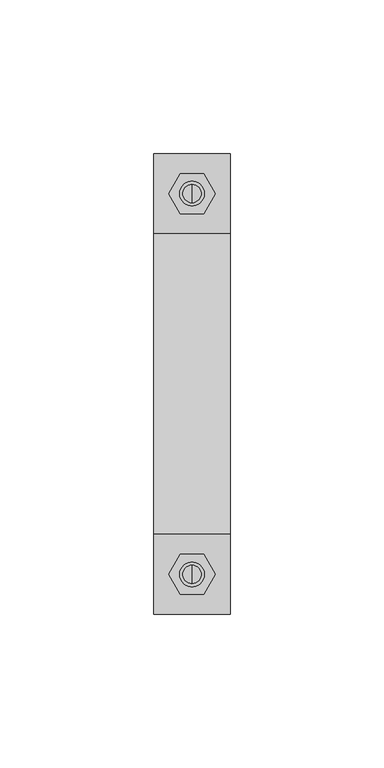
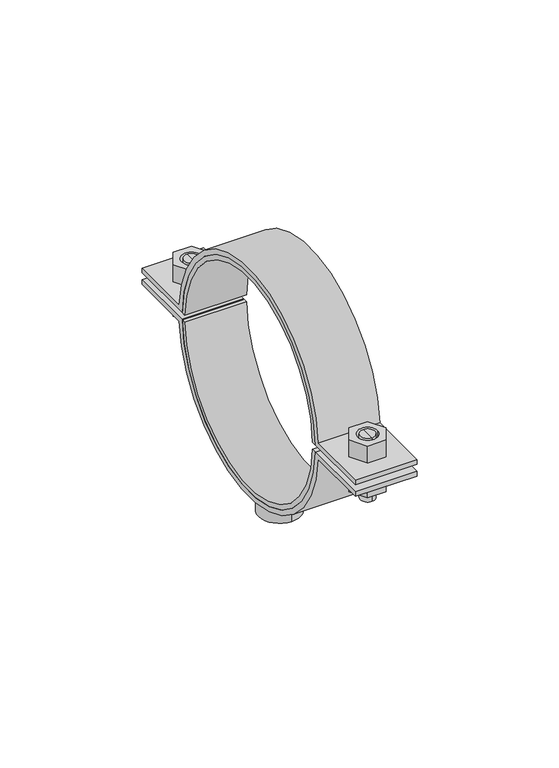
"""IFC4 building model written with IfcOpenShell, lengths in millimetres: valve geometry, Superfix DG2 Clamp Extra + : Superfix DG2 Clamp Extra +."""

from ifc_helpers import new_model, si_unit, point, frame, frame_2d, origin, origin_2d, place, context, project, spatial, polyline, circle_curve, trimmed, segment, composite_curve, outline, extrude, source, transform, mapped, element, save
from ifc_brep_helpers import plane_surface, cylinder_surface, advanced_brep


def valve_25c7dca7(model_context):
    return source(origin(), model_context, "Body", "SolidModel", [
        advanced_brep(
        [(0.0, 65.0, 333.9), (0.0, 59.0, 333.9), (0.0, 59.0, 348.5), (0.0, 65.0, 348.5), (0.0, 62.0, 333.9)],
        [
            (0, 1, circle_curve(frame((0.0, 62.0, 333.9), z_axis=(0.0, 0.0, 1.0), x_axis=(0.0, 1.0, 0.0)), 3.0)),
            (1, 2),
            (2, 3, circle_curve(frame((0.0, 62.0, 348.5), z_axis=(0.0, 0.0, -1.0), x_axis=(0.0, 1.0, 0.0)), 3.0)),
            (3, 0),
            (1, 0, circle_curve(frame((0.0, 62.0, 333.9), z_axis=(0.0, 0.0, 1.0), x_axis=(0.0, 1.0, 0.0)), 3.0)),
            (3, 2, circle_curve(frame((0.0, 62.0, 348.5), z_axis=(0.0, 0.0, -1.0), x_axis=(0.0, 1.0, 0.0)), 3.0)),
            (0, 4),
            (4, 1),
        ],
        [
            cylinder_surface(frame((0.0, 62.0, 348.2806094), z_axis=(0.0, 0.0, 1.0), x_axis=(0.0, 1.0, 0.0)), 3.0),
            plane_surface(frame((0.0, 62.0, 333.9), z_axis=(0.0, 0.0, -1.0), x_axis=(0.0, 1.0, 0.0))),
            plane_surface(frame((13.75, -75.0, 348.5), z_axis=(0.0, 0.0, 1.0), x_axis=(-1.0, 0.0, 0.0))),
        ],
        [
            (0, [[1, 2, 3, 4]]),
            (0, [[5, -4, 6, -2]]),
            (1, [[-1, 7, 8]]),
            (1, [[-5, -8, -7]]),
            (2, [[-3, -6]]),
        ],
    ),
        advanced_brep(
        [(0.0, 59.0, 361.1), (0.0, 65.0, 361.1), (0.0, 65.0, 351.5), (0.0, 59.0, 351.5), (0.0, 62.0, 361.1)],
        [
            (0, 1, circle_curve(frame((0.0, 62.0, 361.1), z_axis=(0.0, 0.0, -1.0), x_axis=(0.0, 1.0, 0.0)), 3.0)),
            (1, 2),
            (2, 3, circle_curve(frame((0.0, 62.0, 351.5), z_axis=(0.0, 0.0, 1.0), x_axis=(0.0, 1.0, 0.0)), 3.0)),
            (3, 0),
            (1, 0, circle_curve(frame((0.0, 62.0, 361.1), z_axis=(0.0, 0.0, -1.0), x_axis=(0.0, 1.0, 0.0)), 3.0)),
            (3, 2, circle_curve(frame((0.0, 62.0, 351.5), z_axis=(0.0, 0.0, 1.0), x_axis=(0.0, 1.0, 0.0)), 3.0)),
            (0, 4),
            (4, 1),
        ],
        [
            cylinder_surface(frame((0.0, 62.0, 348.2806094), z_axis=(0.0, 0.0, 1.0), x_axis=(0.0, 1.0, 0.0)), 3.0),
            plane_surface(frame((0.0, 62.0, 361.1), z_axis=(0.0, 0.0, 1.0), x_axis=(0.0, 1.0, 0.0))),
            plane_surface(frame((13.75, 75.0, 351.5), z_axis=(0.0, 0.0, -1.0), x_axis=(-1.0, 0.0, 0.0))),
        ],
        [
            (0, [[1, 2, 3, 4]]),
            (0, [[5, -4, 6, -2]]),
            (1, [[-1, 7, 8]]),
            (1, [[-5, -8, -7]]),
            (2, [[-3, -6]]),
        ],
    ),
        advanced_brep(
        [(0.0, -65.0, 361.1), (0.0, -59.0, 361.1), (0.0, -59.0, 351.5), (0.0, -65.0, 351.5), (0.0, -62.0, 361.1)],
        [
            (0, 1, circle_curve(frame((0.0, -62.0, 361.1), z_axis=(0.0, 0.0, -1.0), x_axis=(0.0, -1.0, 0.0)), 3.0)),
            (1, 2),
            (2, 3, circle_curve(frame((0.0, -62.0, 351.5), z_axis=(0.0, 0.0, 1.0), x_axis=(0.0, -1.0, 0.0)), 3.0)),
            (3, 0),
            (1, 0, circle_curve(frame((0.0, -62.0, 361.1), z_axis=(0.0, 0.0, -1.0), x_axis=(0.0, -1.0, 0.0)), 3.0)),
            (3, 2, circle_curve(frame((0.0, -62.0, 351.5), z_axis=(0.0, 0.0, 1.0), x_axis=(0.0, -1.0, 0.0)), 3.0)),
            (0, 4),
            (4, 1),
        ],
        [
            cylinder_surface(frame((0.0, -62.0, 348.2806094), z_axis=(0.0, 0.0, -1.0), x_axis=(0.0, -1.0, 0.0)), 3.0),
            plane_surface(frame((0.0, -62.0, 361.1), z_axis=(0.0, 0.0, 1.0), x_axis=(0.0, -1.0, 0.0))),
            plane_surface(frame((13.75, 75.0, 351.5), z_axis=(0.0, 0.0, -1.0), x_axis=(-1.0, 0.0, 0.0))),
        ],
        [
            (0, [[1, 2, 3, 4]]),
            (0, [[5, -4, 6, -2]]),
            (1, [[-1, 7, 8]]),
            (1, [[-5, -8, -7]]),
            (2, [[-3, -6]]),
        ],
    ),
        advanced_brep(
        [(0.0, -59.0, 333.9), (0.0, -65.0, 333.9), (0.0, -65.0, 348.5), (0.0, -59.0, 348.5), (0.0, -62.0, 333.9)],
        [
            (0, 1, circle_curve(frame((0.0, -62.0, 333.9), z_axis=(0.0, 0.0, 1.0), x_axis=(0.0, -1.0, 0.0)), 3.0)),
            (1, 2),
            (2, 3, circle_curve(frame((0.0, -62.0, 348.5), z_axis=(0.0, 0.0, -1.0), x_axis=(0.0, -1.0, 0.0)), 3.0)),
            (3, 0),
            (1, 0, circle_curve(frame((0.0, -62.0, 333.9), z_axis=(0.0, 0.0, 1.0), x_axis=(0.0, -1.0, 0.0)), 3.0)),
            (3, 2, circle_curve(frame((0.0, -62.0, 348.5), z_axis=(0.0, 0.0, -1.0), x_axis=(0.0, -1.0, 0.0)), 3.0)),
            (0, 4),
            (4, 1),
        ],
        [
            cylinder_surface(frame((0.0, -62.0, 348.2806094), z_axis=(0.0, 0.0, -1.0), x_axis=(0.0, -1.0, 0.0)), 3.0),
            plane_surface(frame((0.0, -62.0, 333.9), z_axis=(0.0, 0.0, -1.0), x_axis=(0.0, -1.0, 0.0))),
            plane_surface(frame((13.75, -75.0, 348.5), z_axis=(0.0, 0.0, 1.0), x_axis=(-1.0, 0.0, 0.0))),
        ],
        [
            (0, [[1, 2, 3, 4]]),
            (0, [[5, -4, 6, -2]]),
            (1, [[-1, 7, 8]]),
            (1, [[-5, -8, -7]]),
            (2, [[-3, -6]]),
        ],
    ),
        extrude(outline(composite_curve([segment(trimmed(circle_curve(frame_2d((0.0, 350.0)), 47.0), [point((-46.9760577, 348.5))], [point((46.9760577, 348.5))], True, "CARTESIAN"), True, "CONTINUOUS"), segment(polyline([(46.9760577, 348.5), (75.0, 348.5), (75.0, 346.5), (48.8748402, 346.5)]), True, "CONTINUOUS"), segment(trimmed(circle_curve(frame_2d((0.0, 350.0)), 49.0), [point((48.8748402, 346.5))], [point((-48.8748402, 346.5))], False, "CARTESIAN"), True, "CONTINUOUS"), segment(polyline([(-48.8748402, 346.5), (-75.0, 346.5), (-75.0, 348.5), (-46.9760577, 348.5)]), True, "CONTINUOUS")], self_intersect=False)), frame((-12.5, 0.0, 0.0), z_axis=(1.0, 0.0, 0.0), x_axis=(0.0, 1.0, 0.0)), (0.0, 0.0, 1.0), 25.0),
        extrude(outline(composite_curve([segment(trimmed(circle_curve(frame_2d((0.0, 350.0)), 47.0), [point((46.9760577, 351.5))], [point((-46.9760577, 351.5))], True, "CARTESIAN"), True, "CONTINUOUS"), segment(polyline([(-46.9760577, 351.5), (-75.0, 351.5), (-75.0, 353.5), (-48.8748402, 353.5)]), True, "CONTINUOUS"), segment(trimmed(circle_curve(frame_2d((0.0, 350.0)), 49.0), [point((-48.8748402, 353.5))], [point((48.8748402, 353.5))], False, "CARTESIAN"), True, "CONTINUOUS"), segment(polyline([(48.8748402, 353.5), (75.0, 353.5), (75.0, 351.5), (46.9760577, 351.5)]), True, "CONTINUOUS")], self_intersect=False)), frame((-12.5, 0.0, 0.0), z_axis=(1.0, 0.0, 0.0), x_axis=(0.0, 1.0, 0.0)), (0.0, 0.0, 1.0), 25.0),
        extrude(outline(polyline([(7.5055535, -62.0), (3.7527767, -68.5), (-3.7527767, -68.5), (-7.5055535, -62.0), (-3.7527767, -55.5), (3.7527767, -55.5), (7.5055535, -62.0)]), holes=[composite_curve([segment(trimmed(circle_curve(frame_2d((0.0, -62.0)), 4.0), [point((4.0, -62.0))], [point((-4.0, -62.0))], True, "CARTESIAN"), True, "CONTINUOUS"), segment(trimmed(circle_curve(frame_2d((0.0, -62.0)), 4.0), [point((-4.0, -62.0))], [point((4.0, -62.0))], True, "CARTESIAN"), True, "CONTINUOUS")], self_intersect=False)]), frame((0.0, 0.0, 353.5), z_axis=(0.0, 0.0, 1.0), x_axis=(1.0, 0.0, 0.0)), (0.0, 0.0, 1.0), 7.6),
        extrude(outline(polyline([(7.5055535, 62.0), (3.7527767, 55.5), (-3.7527767, 55.5), (-7.5055535, 62.0), (-3.7527767, 68.5), (3.7527767, 68.5), (7.5055535, 62.0)]), holes=[composite_curve([segment(trimmed(circle_curve(frame_2d((0.0, 62.0)), 4.0), [point((4.0, 62.0))], [point((-4.0, 62.0))], True, "CARTESIAN"), True, "CONTINUOUS"), segment(trimmed(circle_curve(frame_2d((0.0, 62.0)), 4.0), [point((-4.0, 62.0))], [point((4.0, 62.0))], True, "CARTESIAN"), True, "CONTINUOUS")], self_intersect=False)]), frame((0.0, 0.0, 353.5), z_axis=(0.0, 0.0, 1.0), x_axis=(1.0, 0.0, 0.0)), (0.0, 0.0, 1.0), 7.6),
        extrude(outline(polyline([(7.5055535, -62.0), (3.7527767, -68.5), (-3.7527767, -68.5), (-7.5055535, -62.0), (-3.7527767, -55.5), (3.7527767, -55.5), (7.5055535, -62.0)]), holes=[composite_curve([segment(trimmed(circle_curve(frame_2d((0.0, -62.0)), 4.0), [point((4.0, -62.0))], [point((-4.0, -62.0))], True, "CARTESIAN"), True, "CONTINUOUS"), segment(trimmed(circle_curve(frame_2d((0.0, -62.0)), 4.0), [point((-4.0, -62.0))], [point((4.0, -62.0))], True, "CARTESIAN"), True, "CONTINUOUS")], self_intersect=False)]), frame((0.0, 0.0, 338.9), z_axis=(0.0, 0.0, 1.0), x_axis=(1.0, 0.0, 0.0)), (0.0, 0.0, 1.0), 7.6),
        extrude(outline(polyline([(7.5055535, 62.0), (3.7527767, 55.5), (-3.7527767, 55.5), (-7.5055535, 62.0), (-3.7527767, 68.5), (3.7527767, 68.5), (7.5055535, 62.0)]), holes=[composite_curve([segment(trimmed(circle_curve(frame_2d((0.0, 62.0)), 4.0), [point((4.0, 62.0))], [point((-4.0, 62.0))], True, "CARTESIAN"), True, "CONTINUOUS"), segment(trimmed(circle_curve(frame_2d((0.0, 62.0)), 4.0), [point((-4.0, 62.0))], [point((4.0, 62.0))], True, "CARTESIAN"), True, "CONTINUOUS")], self_intersect=False)]), frame((0.0, 0.0, 338.9), z_axis=(0.0, 0.0, 1.0), x_axis=(1.0, 0.0, 0.0)), (0.0, 0.0, 1.0), 7.6),
        extrude(outline(composite_curve([segment(trimmed(circle_curve(origin_2d(), 8.5), [point((0.0, 8.5))], [point((0.0, -8.5))], False, "CARTESIAN"), True, "CONTINUOUS"), segment(trimmed(circle_curve(origin_2d(), 8.5), [point((0.0, -8.5))], [point((0.0, 8.5))], False, "CARTESIAN"), True, "CONTINUOUS")], self_intersect=False), holes=[composite_curve([segment(trimmed(circle_curve(origin_2d(), 5.0), [point((0.0, 5.0))], [point((0.0, -5.0))], True, "CARTESIAN"), True, "CONTINUOUS"), segment(trimmed(circle_curve(origin_2d(), 5.0), [point((0.0, -5.0))], [point((0.0, 5.0))], True, "CARTESIAN"), True, "CONTINUOUS")], self_intersect=False)]), frame((0.0, 0.0, 291.0), z_axis=(0.0, 0.0, 1.0), x_axis=(1.0, 0.0, 0.0)), (0.0, 0.0, 1.0), 12.0),
        extrude(outline(composite_curve([segment(trimmed(circle_curve(frame_2d((0.0, 350.0)), 45.0), [point((44.9749931, 351.5))], [point((-44.9749931, 351.5))], True, "CARTESIAN"), True, "CONTINUOUS"), segment(polyline([(-44.9749931, 351.5), (-46.9760577, 351.5)]), True, "CONTINUOUS"), segment(trimmed(circle_curve(frame_2d((0.0, 350.0)), 47.0), [point((-46.9760577, 351.5))], [point((46.9760577, 351.5))], False, "CARTESIAN"), True, "CONTINUOUS"), segment(polyline([(46.9760577, 351.5), (44.9749931, 351.5)]), True, "CONTINUOUS")], self_intersect=False)), frame((-12.5, 0.0, 0.0), z_axis=(1.0, 0.0, 0.0), x_axis=(0.0, 1.0, 0.0)), (0.0, 0.0, 1.0), 25.0),
        extrude(outline(composite_curve([segment(polyline([(44.9749931, 348.5), (46.9760577, 348.5)]), True, "CONTINUOUS"), segment(trimmed(circle_curve(frame_2d((0.0, 350.0)), 47.0), [point((46.9760577, 348.5))], [point((-46.9760577, 348.5))], False, "CARTESIAN"), True, "CONTINUOUS"), segment(polyline([(-46.9760577, 348.5), (-44.9749931, 348.5)]), True, "CONTINUOUS"), segment(trimmed(circle_curve(frame_2d((0.0, 350.0)), 45.0), [point((-44.9749931, 348.5))], [point((44.9749931, 348.5))], True, "CARTESIAN"), True, "CONTINUOUS")], self_intersect=False)), frame((-12.5, 0.0, 0.0), z_axis=(1.0, 0.0, 0.0), x_axis=(0.0, 1.0, 0.0)), (0.0, 0.0, 1.0), 25.0),
    ])


if __name__ == "__main__":
    model = new_model("IFC4")
    model_context = context("Model", 3, world=origin())
    ifc_project = project(units=[si_unit("LENGTHUNIT", "METRE", prefix="MILLI")], contexts=[model_context])
    site = spatial("IfcSite", under=ifc_project)
    building = spatial("IfcBuilding", under=site)
    placement = place(None, origin())
    valve_shape = valve_25c7dca7(model_context)
    element("IfcValve", 1, ObjectType="Superfix DG2 Clamp Extra + : Superfix DG2 Clamp Extra +", at=placement, inside=building, context=model_context, shape_type="MappedRepresentation", body=[
        mapped(valve_shape, transform((0.0, 0.0, 0.0), x_axis=(1.0, 0.0, 0.0), y_axis=(0.0, 1.0, 0.0), z_axis=(0.0, 0.0, 1.0))),
    ])
    save(model, "model.ifc")
